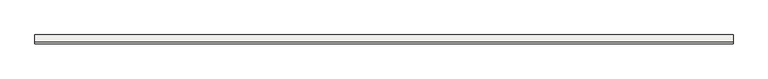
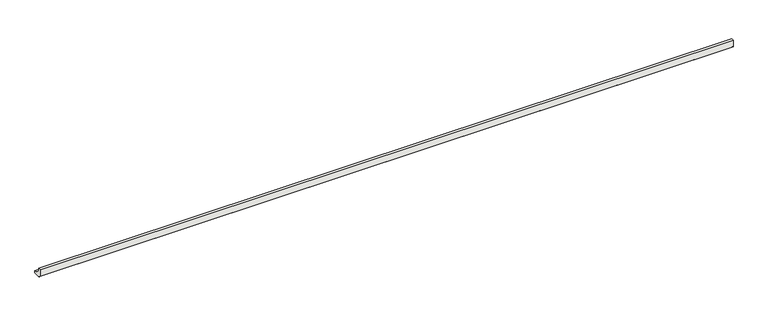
"""IFC4 building model written with IfcOpenShell, lengths in millimetres: slab geometry, ROSA GRES_188 : Pieza 188_Tao_Beige_Liso."""

import ifcopenshell
import ifcopenshell.guid

model = None  # the IFC model being written
_history = None  # IfcOwnerHistory: only IFC2X3 demands one
_inside = {}  # id of a spatial element -> (the spatial element, [elements in it])
_under = {}  # id of a project, library or spatial element -> (it, [spatial elements below it])
_declared = {}  # id of a project -> (the project, [libraries it declares])
_typed = {}  # id of a type object -> (the type object, [elements of that type])
_made_of = {}  # id of a material, layer set ... -> (it, [elements and type objects made of it])


def new_model(schema):
    """Start an empty IFC model of exactly this schema.

    Asked for "IFC4X3", IfcOpenShell would pick the latest addendum, in which some entities
    have other attributes; the version numbers below select the first issue.
    IFC2X3 requires an IfcOwnerHistory on every rooted entity: one is made here for all.
    """
    global model, _history
    if schema == "IFC4X3":
        model = ifcopenshell.file(schema_version=(4, 3, 0, 0))
    else:
        model = ifcopenshell.file(schema=schema)
    _inside.clear()
    _under.clear()
    _declared.clear()
    _typed.clear()
    _made_of.clear()
    _history = None
    if model.schema == "IFC2X3":
        org = make("IfcOrganization", Name="unknown")
        user = make(
            "IfcPersonAndOrganization",
            ThePerson=make("IfcPerson", FamilyName="unknown"),
            TheOrganization=org,
        )
        app = make(
            "IfcApplication",
            ApplicationDeveloper=org,
            Version="unknown",
            ApplicationFullName="unknown",
            ApplicationIdentifier="unknown",
        )
        _history = make(
            "IfcOwnerHistory",
            OwningUser=user,
            OwningApplication=app,
            ChangeAction="ADDED",
            CreationDate=0,
        )
    return model


def make(cls, **values):
    """One entity of the class cls with the attributes given. An attribute that is None is left unset."""
    return model.create_entity(
        cls, **{name: value for name, value in values.items() if value is not None}
    )


def rooted(cls, **values):
    """An entity with a GlobalId (a new one), such as an element, a storey or a relation."""
    return make(cls, GlobalId=ifcopenshell.guid.new(), OwnerHistory=_history, **values)


def si_unit(unit_type, name, prefix=None):
    """IfcSIUnit, for example si_unit("LENGTHUNIT", "METRE", prefix="MILLI")."""
    return make("IfcSIUnit", UnitType=unit_type, Prefix=prefix, Name=name)


def assignment(units):
    """IfcUnitAssignment: the units of a project."""
    return None if units is None else make("IfcUnitAssignment", Units=units)


def point(xyz):
    """IfcCartesianPoint."""
    return None if xyz is None else make("IfcCartesianPoint", Coordinates=xyz)


def direction(xyz):
    """IfcDirection."""
    return None if xyz is None else make("IfcDirection", DirectionRatios=xyz)


def frame(location, z_axis=None, x_axis=None):
    """IfcAxis2Placement3D, a coordinate frame: its origin and axes. An axis left out is left unset."""
    return make(
        "IfcAxis2Placement3D",
        Location=point(location),
        Axis=direction(z_axis),
        RefDirection=direction(x_axis),
    )


def frame_2d(location, x_axis=None):
    """IfcAxis2Placement2D, a coordinate frame in the plane: its origin and x axis."""
    return make(
        "IfcAxis2Placement2D", Location=point(location), RefDirection=direction(x_axis)
    )


def origin():
    """The frame at (0, 0, 0) with its axes left unset."""
    return frame((0.0, 0.0, 0.0))


def place(relative_to, where):
    """IfcLocalPlacement: puts the frame where relative to a parent placement (None: the world)."""
    return make(
        "IfcLocalPlacement", PlacementRelTo=relative_to, RelativePlacement=where
    )


def context(
    kind, dimensions, precision=None, world=None, true_north=None, identifier=None
):
    """IfcGeometricRepresentationContext, for example the 3D "Model" context."""
    return make(
        "IfcGeometricRepresentationContext",
        ContextIdentifier=identifier,
        ContextType=kind,
        CoordinateSpaceDimension=dimensions,
        Precision=precision,
        WorldCoordinateSystem=world,
        TrueNorth=true_north,
    )


def project(units=None, contexts=None):
    """IfcProject with its units and contexts."""
    return rooted(
        "IfcProject",
        Name="project",
        RepresentationContexts=contexts,
        UnitsInContext=assignment(units),
    )


def spatial(cls, under=None, at=None, **own):
    """A site, building, storey or space (cls), placed at a placement, below another one or the project."""
    s = rooted(cls, ObjectPlacement=at, **own)
    if under is not None:
        _under.setdefault(under.id(), (under, []))[1].append(s)
    return s


def polyline(points):
    """IfcPolyline through the points."""
    return make("IfcPolyline", Points=[point(p) for p in points])


def circle_curve(where, radius):
    """IfcCircle in the frame where."""
    return make("IfcCircle", Position=where, Radius=radius)


def trimmed(basis, trim1, trim2, sense, master):
    """IfcTrimmedCurve: the piece of a basis curve between two trims."""
    return make(
        "IfcTrimmedCurve",
        BasisCurve=basis,
        Trim1=trim1,
        Trim2=trim2,
        SenseAgreement=sense,
        MasterRepresentation=master,
    )


def segment(curve, same_sense, transition):
    """IfcCompositeCurveSegment."""
    return make(
        "IfcCompositeCurveSegment",
        Transition=transition,
        SameSense=same_sense,
        ParentCurve=curve,
    )


def composite_curve(segments, self_intersect=None):
    """IfcCompositeCurve: segments joined end to end."""
    return make("IfcCompositeCurve", Segments=segments, SelfIntersect=self_intersect)


def outline(outer, holes=None, kind="AREA"):
    """IfcArbitraryClosedProfileDef: a profile drawn as a closed curve; with holes, ...WithVoids."""
    if holes is None:
        return make("IfcArbitraryClosedProfileDef", ProfileType=kind, OuterCurve=outer)
    return make(
        "IfcArbitraryProfileDefWithVoids",
        ProfileType=kind,
        OuterCurve=outer,
        InnerCurves=holes,
    )


def extrude(swept, where, along, depth):
    """IfcExtrudedAreaSolid: the profile swept, set in the frame where, extruded along a direction by depth."""
    return make(
        "IfcExtrudedAreaSolid",
        SweptArea=swept,
        Position=where,
        ExtrudedDirection=direction(along),
        Depth=depth,
    )


def shape(context_of_items, identifier, shape_type, items):
    """IfcShapeRepresentation: the items that make up one representation, for example the "Body"."""
    return make(
        "IfcShapeRepresentation",
        ContextOfItems=context_of_items,
        RepresentationIdentifier=identifier,
        RepresentationType=shape_type,
        Items=items,
    )


def source(mapping_origin, context_of_items, identifier, shape_type, items):
    """IfcRepresentationMap: a shape defined once, which mapped items show again and again."""
    return make(
        "IfcRepresentationMap",
        MappingOrigin=mapping_origin,
        MappedRepresentation=shape(context_of_items, identifier, shape_type, items),
    )


def transform(
    local_origin,
    x_axis=None,
    y_axis=None,
    z_axis=None,
    scale=None,
    scale2=None,
    scale3=None,
    uniform=True,
):
    """IfcCartesianTransformationOperator3D, or its non-uniform kind. x_axis, y_axis, z_axis: its Axis1, 2, 3."""
    if uniform:
        return make(
            "IfcCartesianTransformationOperator3D",
            Axis1=direction(x_axis),
            Axis2=direction(y_axis),
            LocalOrigin=point(local_origin),
            Scale=scale,
            Axis3=direction(z_axis),
        )
    return make(
        "IfcCartesianTransformationOperator3DnonUniform",
        Axis1=direction(x_axis),
        Axis2=direction(y_axis),
        LocalOrigin=point(local_origin),
        Scale=scale,
        Axis3=direction(z_axis),
        Scale2=scale2,
        Scale3=scale3,
    )


def mapped(mapping_source, mapping_target):
    """IfcMappedItem: shows the shape of a source again, moved by a transform."""
    return make(
        "IfcMappedItem", MappingSource=mapping_source, MappingTarget=mapping_target
    )


def made_of(thing, what):
    """Note that an element or type object is made of a material, layer set ...; save() writes the relation."""
    if what is not None:
        _made_of.setdefault(what.id(), (what, []))[1].append(thing)
    return thing


def element(
    cls,
    number,
    at=None,
    inside=None,
    cuts=None,
    type_object=None,
    material=None,
    context=None,
    identifier="Body",
    shape_type=None,
    held_by="IfcProductDefinitionShape",
    body=None,
    shapes=None,
    **own,
):
    """One element of the class cls, such as IfcWall. Its Tag is "e" and its number.

    at: its placement. inside: the storey or other place that contains it. cuts: it is an
    opening in that element (IfcRelVoidsElement). A single representation is given by context,
    identifier, shape_type and body (its items); several are given by shapes. held_by: the class
    of the entity that holds the representations. save() writes the other relations.
    """
    e = rooted(cls, Tag="e%d" % number, ObjectPlacement=at, **own)
    if body is not None:
        shapes = [shape(context, identifier, shape_type, body)]
    if shapes is not None:
        e.Representation = make(held_by, Representations=shapes)
    if inside is not None:
        _inside.setdefault(inside.id(), (inside, []))[1].append(e)
    if cuts is not None:
        rooted(
            "IfcRelVoidsElement", RelatingBuildingElement=cuts, RelatedOpeningElement=e
        )
    if type_object is not None:
        _typed.setdefault(type_object.id(), (type_object, []))[1].append(e)
    return made_of(e, material)


def aggregate(whole, parts):
    """IfcRelAggregates: a whole, such as a stair, and the parts it consists of."""
    return rooted("IfcRelAggregates", RelatingObject=whole, RelatedObjects=parts)


def save(model, path):
    """Write the relations noted so far, then the file.

    IfcRelAggregates (storeys below a building ...), IfcRelContainedInSpatialStructure (elements
    in a storey), IfcRelDefinesByType, IfcRelAssociatesMaterial and IfcRelDeclares: one each for
    every whole, place, type object, material and project.
    """
    for whole, parts in _under.values():
        aggregate(whole, parts)
    for where, things in _inside.values():
        rooted(
            "IfcRelContainedInSpatialStructure",
            RelatedElements=things,
            RelatingStructure=where,
        )
    for kind, things in _typed.values():
        rooted("IfcRelDefinesByType", RelatedObjects=things, RelatingType=kind)
    for what, things in _made_of.values():
        rooted("IfcRelAssociatesMaterial", RelatedObjects=things, RelatingMaterial=what)
    for by, libraries in _declared.values():
        rooted("IfcRelDeclares", RelatingContext=by, RelatedDefinitions=libraries)
    model.write(path)


def slab_d2b3e7c7(model_context):
    return source(origin(), model_context, "Body", "SweptSolid", [
        extrude(outline(composite_curve([segment(polyline([(0.0, 8.7114978), (0.0, 40.0), (9.9734114, 40.0)]), True, "CONTINUOUS"), segment(trimmed(circle_curve(frame_2d((39.9955547, 39.9955547)), 30.0221435), [point((9.9734114, 40.0))], [point((40.0, 9.9734114))], True, "CARTESIAN"), True, "CONTINUOUS"), segment(polyline([(40.0, 9.9734114), (40.0, 0.0), (8.7114978, 0.0), (0.0, 8.7114978)]), True, "CONTINUOUS")], self_intersect=False)), frame((0.0, 0.0, 0.0), z_axis=(1.0, 0.0, 0.0), x_axis=(0.0, 1.0, 0.0)), (0.0, 0.0, 1.0), 3077.5),
    ])


if __name__ == "__main__":
    model = new_model("IFC4")
    model_context = context("Model", 3, world=origin())
    ifc_project = project(units=[si_unit("LENGTHUNIT", "METRE", prefix="MILLI")], contexts=[model_context])
    site = spatial("IfcSite", under=ifc_project)
    building = spatial("IfcBuilding", under=site)
    placement = place(None, origin())
    slab_shape = slab_d2b3e7c7(model_context)
    element("IfcSlab", 1, ObjectType="ROSA GRES_188 : Pieza 188_Tao_Beige_Liso", at=placement, inside=building, context=model_context, shape_type="MappedRepresentation", body=[
        mapped(slab_shape, transform((0.0, 0.0, 0.0), x_axis=(1.0, 0.0, 0.0), y_axis=(0.0, 1.0, 0.0), z_axis=(0.0, 0.0, 1.0))),
    ])
    save(model, "model.ifc")
